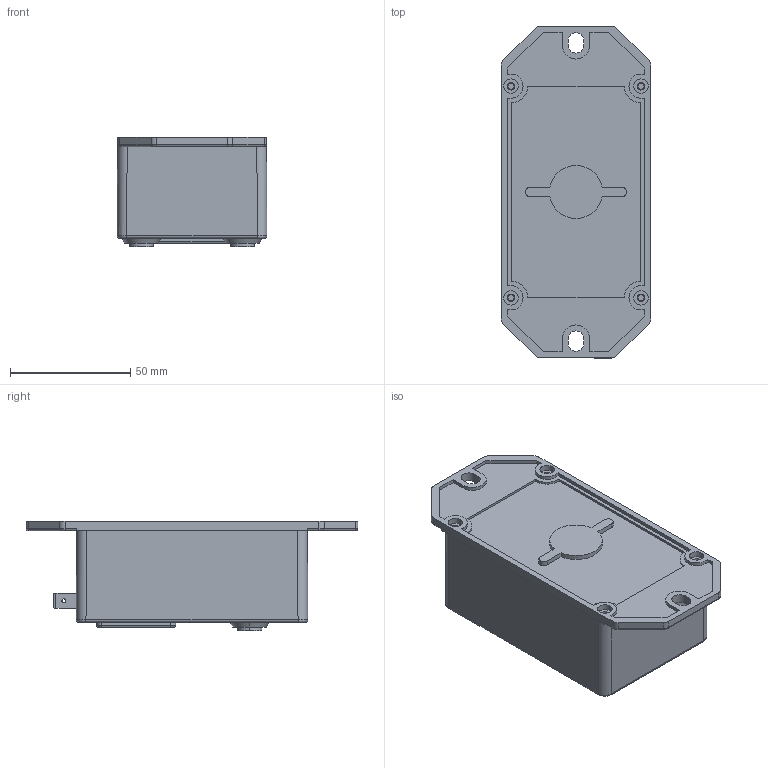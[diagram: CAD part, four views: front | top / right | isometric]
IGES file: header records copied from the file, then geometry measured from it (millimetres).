
Start section: Elysium IGES Interface
Global section: file name: C:\Users\pmo\Desktop\LV 100_SP47\LV_100_SP47.igs; native system: Creo Elements/Direct Modeling 17.0C  05-Feb-2011; preprocessor: Creo Element/Direct IGES_3D V2.2; author: Unknown; organization: Unknown; date: 20120914.130348; units: millimetre
Bounding box: 62.13 x 138 x 45.5 mm (x, y, z)
Volume: 243497.4 mm3; surface area: 38700.9 mm2
Topology: 3 solids, 7 shells, 378 faces, 886 edges, 562 vertices
Faces by surface type: bspline 378
